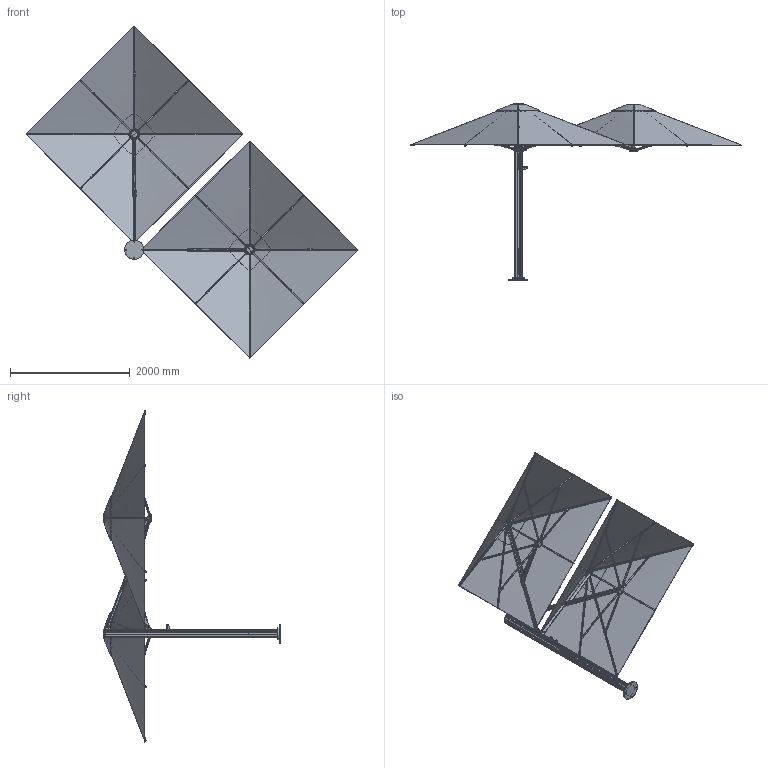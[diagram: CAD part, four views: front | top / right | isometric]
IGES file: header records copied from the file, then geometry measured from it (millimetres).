
Start section: SolidWorks IGES file using analytic representation for surfaces
Global section: file name: S:\SHADE UMBRELLAS\3. CAD Model Drawings. Data Sheets\SHADOWSPEC Unity & Serenity\IGES Files\2.5M CNR SQ Duo.IGS; native system: SolidWorks 2017; preprocessor: SolidWorks 2017; author: Peter; date: 200619.095512; units: millimetre
Bounding box: 5550.69 x 2943.5 x 5550.69 mm (x, y, z)
Surface area: 39380176.6 mm2 (no closed solid volume)
Topology: 0 solids, 0 shells, 3192 faces, 42930 edges, 42906 vertices
Faces by surface type: bspline 1610, revolution 1582
